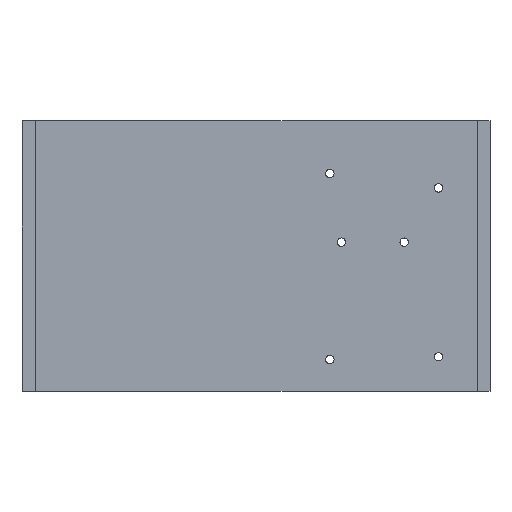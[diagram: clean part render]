
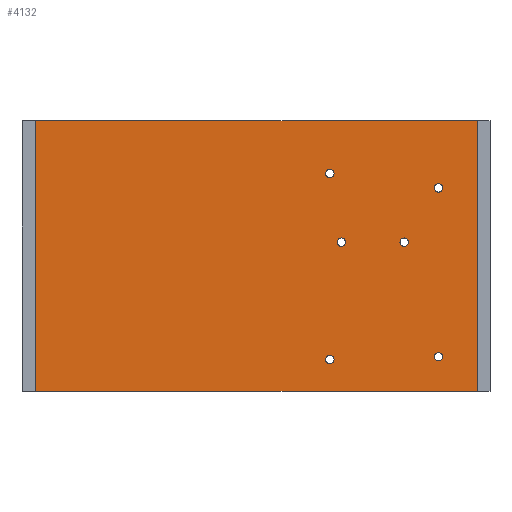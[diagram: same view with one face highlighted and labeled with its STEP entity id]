
A CAD part, top view. The second image highlights one B-rep face of the part: STEP entity #4132.
In plain terms, the highlighted planar face has unit normal (0, 0, 1).
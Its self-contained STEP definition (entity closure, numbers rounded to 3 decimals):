
#109=CIRCLE('',#4212,1.875);
#111=CIRCLE('',#4215,1.875);
#113=CIRCLE('',#4218,1.875);
#115=CIRCLE('',#4221,1.875);
#117=CIRCLE('',#4224,1.875);
#119=CIRCLE('',#4227,1.875);
#191=FACE_BOUND('',#666,.T.);
#192=FACE_BOUND('',#667,.T.);
#193=FACE_BOUND('',#668,.T.);
#194=FACE_BOUND('',#669,.T.);
#195=FACE_BOUND('',#670,.T.);
#196=FACE_BOUND('',#671,.T.);
#404=FACE_OUTER_BOUND('',#665,.T.);
#665=EDGE_LOOP('',(#3682,#3683,#3684,#3685));
#666=EDGE_LOOP('',(#3686));
#667=EDGE_LOOP('',(#3687));
#668=EDGE_LOOP('',(#3688));
#669=EDGE_LOOP('',(#3689));
#670=EDGE_LOOP('',(#3690));
#671=EDGE_LOOP('',(#3691));
#1143=LINE('',#6934,#1628);
#1144=LINE('',#6937,#1629);
#1145=LINE('',#6939,#1630);
#1146=LINE('',#6940,#1631);
#1628=VECTOR('',#5236,10.);
#1629=VECTOR('',#5239,10.);
#1630=VECTOR('',#5240,10.);
#1631=VECTOR('',#5241,10.);
#1748=VERTEX_POINT('',#5577);
#1750=VERTEX_POINT('',#5583);
#1752=VERTEX_POINT('',#5589);
#1754=VERTEX_POINT('',#5595);
#1756=VERTEX_POINT('',#5601);
#1758=VERTEX_POINT('',#5607);
#2019=VERTEX_POINT('',#6930);
#2020=VERTEX_POINT('',#6932);
#2021=VERTEX_POINT('',#6936);
#2022=VERTEX_POINT('',#6938);
#2179=EDGE_CURVE('',#1748,#1748,#109,.T.);
#2182=EDGE_CURVE('',#1750,#1750,#111,.T.);
#2185=EDGE_CURVE('',#1752,#1752,#113,.T.);
#2188=EDGE_CURVE('',#1754,#1754,#115,.T.);
#2191=EDGE_CURVE('',#1756,#1756,#117,.T.);
#2194=EDGE_CURVE('',#1758,#1758,#119,.T.);
#2583=EDGE_CURVE('',#2019,#2020,#1143,.T.);
#2584=EDGE_CURVE('',#2019,#2021,#1144,.T.);
#2585=EDGE_CURVE('',#2022,#2020,#1145,.T.);
#2586=EDGE_CURVE('',#2021,#2022,#1146,.T.);
#3682=ORIENTED_EDGE('',*,*,#2584,.F.);
#3683=ORIENTED_EDGE('',*,*,#2583,.T.);
#3684=ORIENTED_EDGE('',*,*,#2585,.F.);
#3685=ORIENTED_EDGE('',*,*,#2586,.F.);
#3686=ORIENTED_EDGE('',*,*,#2179,.T.);
#3687=ORIENTED_EDGE('',*,*,#2182,.T.);
#3688=ORIENTED_EDGE('',*,*,#2185,.T.);
#3689=ORIENTED_EDGE('',*,*,#2188,.T.);
#3690=ORIENTED_EDGE('',*,*,#2191,.T.);
#3691=ORIENTED_EDGE('',*,*,#2194,.T.);
#3915=PLANE('',#4358);
#4132=ADVANCED_FACE('',(#404,#191,#192,#193,#194,#195,#196),#3915,.T.);
#4212=AXIS2_PLACEMENT_3D('',#5579,#4627,#4628);
#4215=AXIS2_PLACEMENT_3D('',#5585,#4634,#4635);
#4218=AXIS2_PLACEMENT_3D('',#5591,#4641,#4642);
#4221=AXIS2_PLACEMENT_3D('',#5597,#4648,#4649);
#4224=AXIS2_PLACEMENT_3D('',#5603,#4655,#4656);
#4227=AXIS2_PLACEMENT_3D('',#5609,#4662,#4663);
#4358=AXIS2_PLACEMENT_3D('',#6935,#5237,#5238);
#4627=DIRECTION('center_axis',(0.,0.,-1.));
#4628=DIRECTION('ref_axis',(-1.,0.,0.));
#4634=DIRECTION('center_axis',(0.,0.,-1.));
#4635=DIRECTION('ref_axis',(-1.,0.,0.));
#4641=DIRECTION('center_axis',(0.,0.,-1.));
#4642=DIRECTION('ref_axis',(-1.,0.,0.));
#4648=DIRECTION('center_axis',(0.,0.,-1.));
#4649=DIRECTION('ref_axis',(-1.,0.,0.));
#4655=DIRECTION('center_axis',(0.,0.,-1.));
#4656=DIRECTION('ref_axis',(-1.,0.,0.));
#4662=DIRECTION('center_axis',(0.,0.,-1.));
#4663=DIRECTION('ref_axis',(-1.,0.,0.));
#5236=DIRECTION('',(0.,1.,0.));
#5237=DIRECTION('center_axis',(0.,0.,1.));
#5238=DIRECTION('ref_axis',(1.,0.,0.));
#5239=DIRECTION('',(-1.,0.,0.));
#5240=DIRECTION('',(1.,0.,0.));
#5241=DIRECTION('',(0.,1.,0.));
#5577=CARTESIAN_POINT('',(165.415,66.1,0.));
#5579=CARTESIAN_POINT('Origin',(163.54,66.1,0.));
#5583=CARTESIAN_POINT('',(180.615,90.2,0.));
#5585=CARTESIAN_POINT('Origin',(178.74,90.2,0.));
#5589=CARTESIAN_POINT('',(180.615,15.3,0.));
#5591=CARTESIAN_POINT('Origin',(178.74,15.3,0.));
#5595=CARTESIAN_POINT('',(137.515,66.1,0.));
#5597=CARTESIAN_POINT('Origin',(135.64,66.1,0.));
#5601=CARTESIAN_POINT('',(132.415,96.52,0.));
#5603=CARTESIAN_POINT('Origin',(130.54,96.52,0.));
#5607=CARTESIAN_POINT('',(132.415,14.,0.));
#5609=CARTESIAN_POINT('Origin',(130.54,14.,0.));
#6930=CARTESIAN_POINT('',(196.,0.,0.));
#6932=CARTESIAN_POINT('',(196.,120.,0.));
#6934=CARTESIAN_POINT('',(196.,0.,0.));
#6935=CARTESIAN_POINT('Origin',(0.,0.,0.));
#6936=CARTESIAN_POINT('',(0.,0.,0.));
#6937=CARTESIAN_POINT('',(4.,0.,0.));
#6938=CARTESIAN_POINT('',(0.,120.,0.));
#6939=CARTESIAN_POINT('',(4.,120.,0.));
#6940=CARTESIAN_POINT('',(0.,0.,0.));
